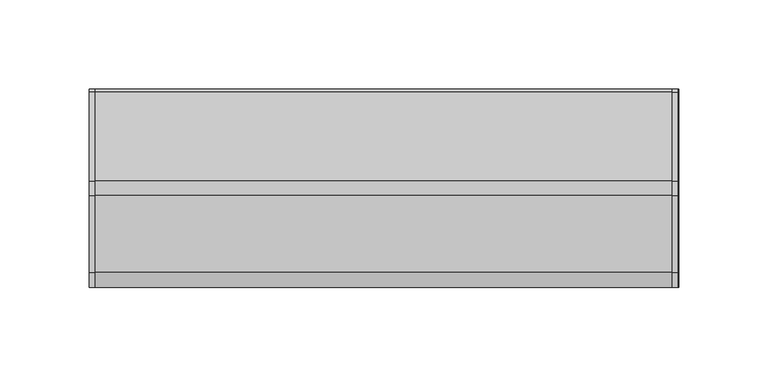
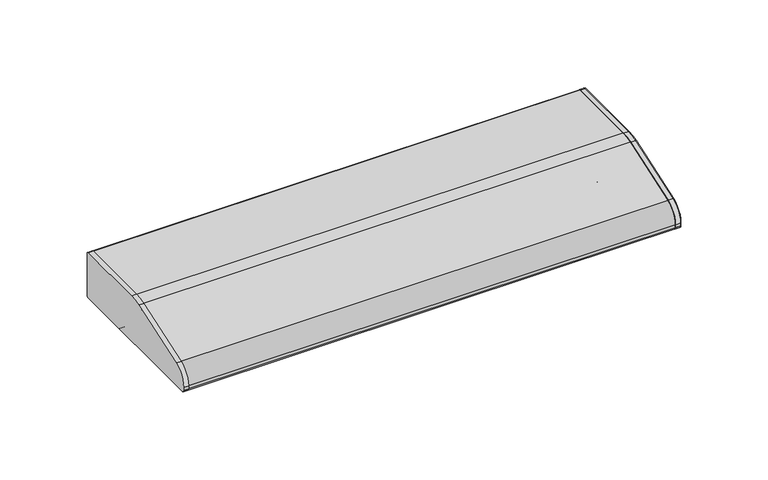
"""IFC4 building model written with IfcOpenShell, lengths in millimetres: light fixture geometry, HermanMiller_SupplementalProducts_G6136_UtilityTaskLight : AO Etho Canvas 24W."""

from ifc_helpers import new_model, si_unit, point, frame, frame_2d, origin, place, context, project, spatial, polyline, circle_curve, trimmed, segment, composite_curve, outline, extrude, source, transform, mapped, element, save


def light_fixture_0c34e72c(model_context):
    return source(origin(), model_context, "Body", "SweptSolid", [
        extrude(outline(composite_curve([segment(polyline([(53.975, 1270.0), (-53.975, 1270.0)]), True, "CONTINUOUS"), segment(trimmed(circle_curve(frame_2d((-53.975, 1271.5875)), 1.5875), [point((-53.975, 1270.0))], [point((-55.5625, 1271.5875))], False, "CARTESIAN"), True, "CONTINUOUS"), segment(polyline([(-55.5625, 1271.5875), (-55.5625, 1273.6285714)]), True, "CONTINUOUS"), segment(trimmed(circle_curve(frame_2d((-42.8625, 1273.6285714)), 12.7), [point((-55.5625, 1273.6285714))], [point((-46.9814189, 1285.6420849))], False, "CARTESIAN"), True, "CONTINUOUS"), segment(polyline([(-46.9814189, 1285.6420849), (-4.0045045, 1300.377027)]), True, "CONTINUOUS"), segment(trimmed(circle_curve(frame_2d((4.2333333, 1276.35)), 25.4), [point((-4.0045045, 1300.377027))], [point((4.2333333, 1301.75))], False, "CARTESIAN"), True, "CONTINUOUS"), segment(polyline([(4.2333333, 1301.75), (53.975, 1301.75)]), True, "CONTINUOUS"), segment(trimmed(circle_curve(frame_2d((53.975, 1300.1625)), 1.5875), [point((53.975, 1301.75))], [point((55.5625, 1300.1625))], False, "CARTESIAN"), True, "CONTINUOUS"), segment(polyline([(55.5625, 1300.1625), (55.5625, 1271.5875)]), True, "CONTINUOUS"), segment(trimmed(circle_curve(frame_2d((53.975, 1271.5875)), 1.5875), [point((55.5625, 1271.5875))], [point((53.975, 1270.0))], False, "CARTESIAN"), True, "CONTINUOUS")], self_intersect=False)), frame((161.544, 0.0, 0.0), z_axis=(1.0, 0.0, 0.0), x_axis=(0.0, 1.0, 0.0)), (0.0, 0.0, 1.0), 3.175),
        extrude(outline(composite_curve([segment(trimmed(circle_curve(frame_2d((53.975, 1300.1625)), 1.5875), [point((53.975, 1301.75))], [point((55.5625, 1300.1625))], False, "CARTESIAN"), True, "CONTINUOUS"), segment(polyline([(55.5625, 1300.1625), (55.5625, 1271.5875)]), True, "CONTINUOUS"), segment(trimmed(circle_curve(frame_2d((53.975, 1271.5875)), 1.5875), [point((55.5625, 1271.5875))], [point((53.975, 1270.0))], False, "CARTESIAN"), True, "CONTINUOUS"), segment(polyline([(53.975, 1270.0), (-53.975, 1270.0)]), True, "CONTINUOUS"), segment(trimmed(circle_curve(frame_2d((-53.975, 1271.5875)), 1.5875), [point((-53.975, 1270.0))], [point((-55.5625, 1271.5875))], False, "CARTESIAN"), True, "CONTINUOUS"), segment(polyline([(-55.5625, 1271.5875), (-55.5625, 1273.6285714)]), True, "CONTINUOUS"), segment(trimmed(circle_curve(frame_2d((-42.8625, 1273.6285714)), 12.7), [point((-55.5625, 1273.6285714))], [point((-46.9814189, 1285.6420849))], False, "CARTESIAN"), True, "CONTINUOUS"), segment(polyline([(-46.9814189, 1285.6420849), (-4.0045045, 1300.377027)]), True, "CONTINUOUS"), segment(trimmed(circle_curve(frame_2d((4.2333333, 1276.35)), 25.4), [point((-4.0045045, 1300.377027))], [point((4.2333333, 1301.75))], False, "CARTESIAN"), True, "CONTINUOUS"), segment(polyline([(4.2333333, 1301.75), (53.975, 1301.75)]), True, "CONTINUOUS")], self_intersect=False)), frame((-164.719, 0.0, 0.0), z_axis=(1.0, 0.0, 0.0), x_axis=(0.0, 1.0, 0.0)), (0.0, 0.0, 1.0), 3.175),
        extrude(outline(composite_curve([segment(polyline([(55.5625, 1300.1625), (55.5625, 1271.5875)]), True, "CONTINUOUS"), segment(trimmed(circle_curve(frame_2d((53.975, 1271.5875)), 1.5875), [point((55.5625, 1271.5875))], [point((53.975, 1270.0))], False, "CARTESIAN"), True, "CONTINUOUS"), segment(polyline([(53.975, 1270.0), (19.05, 1270.0)]), True, "CONTINUOUS"), segment(trimmed(circle_curve(frame_2d((19.05, 1271.5875)), 1.5875), [point((19.05, 1270.0))], [point((17.4625, 1271.5875))], False, "CARTESIAN"), True, "CONTINUOUS"), segment(polyline([(17.4625, 1271.5875), (17.4625, 1300.1625), (4.4979167, 1300.1625)]), True, "CONTINUOUS"), segment(trimmed(circle_curve(frame_2d((4.4979167, 1274.7625)), 25.4), [point((4.4979167, 1300.1625))], [point((-3.7399212, 1298.789527))], True, "CARTESIAN"), True, "CONTINUOUS"), segment(polyline([(-3.7399212, 1298.789527), (-37.4564189, 1287.2295849)]), True, "CONTINUOUS"), segment(trimmed(circle_curve(frame_2d((-33.3375, 1275.2160714)), 12.7), [point((-37.4564189, 1287.2295849))], [point((-46.0375, 1275.2160714))], True, "CARTESIAN"), True, "CONTINUOUS"), segment(polyline([(-46.0375, 1275.2160714), (-46.0375, 1271.5875)]), True, "CONTINUOUS"), segment(trimmed(circle_curve(frame_2d((-47.625, 1271.5875)), 1.5875), [point((-46.0375, 1271.5875))], [point((-47.625, 1270.0))], False, "CARTESIAN"), True, "CONTINUOUS"), segment(polyline([(-47.625, 1270.0), (-53.975, 1270.0)]), True, "CONTINUOUS"), segment(trimmed(circle_curve(frame_2d((-53.975, 1271.5875)), 1.5875), [point((-53.975, 1270.0))], [point((-55.5625, 1271.5875))], False, "CARTESIAN"), True, "CONTINUOUS"), segment(polyline([(-55.5625, 1271.5875), (-55.5625, 1273.6285714)]), True, "CONTINUOUS"), segment(trimmed(circle_curve(frame_2d((-42.8625, 1273.6285714)), 12.7), [point((-55.5625, 1273.6285714))], [point((-46.9814189, 1285.6420849))], False, "CARTESIAN"), True, "CONTINUOUS"), segment(polyline([(-46.9814189, 1285.6420849), (-4.0045045, 1300.377027)]), True, "CONTINUOUS"), segment(trimmed(circle_curve(frame_2d((4.2333333, 1276.35)), 25.4), [point((-4.0045045, 1300.377027))], [point((4.2333333, 1301.75))], False, "CARTESIAN"), True, "CONTINUOUS"), segment(polyline([(4.2333333, 1301.75), (53.975, 1301.75)]), True, "CONTINUOUS"), segment(trimmed(circle_curve(frame_2d((53.975, 1300.1625)), 1.5875), [point((53.975, 1301.75))], [point((55.5625, 1300.1625))], False, "CARTESIAN"), True, "CONTINUOUS")], self_intersect=False)), frame((-164.719, 0.0, 0.0), z_axis=(1.0, 0.0, 0.0), x_axis=(0.0, 1.0, 0.0)), (0.0, 0.0, 1.0), 329.9040011),
        extrude(outline(composite_curve([segment(trimmed(circle_curve(frame_2d((1.5875, 1287.4625)), 9.525), [point((-7.9375, 1287.4625))], [point((11.1125, 1287.4625))], False, "CARTESIAN"), True, "CONTINUOUS"), segment(trimmed(circle_curve(frame_2d((1.5875, 1287.4625)), 9.525), [point((11.1125, 1287.4625))], [point((-7.9375, 1287.4625))], False, "CARTESIAN"), True, "CONTINUOUS")], self_intersect=False)), frame((139.319, 0.0, 0.0), z_axis=(1.0, 0.0, 0.0), x_axis=(0.0, 1.0, 0.0)), (0.0, 0.0, 1.0), 12.7),
        extrude(outline(composite_curve([segment(trimmed(circle_curve(frame_2d((1.5875, 1287.4625)), 9.525), [point((-7.9375, 1287.4625))], [point((11.1125, 1287.4625))], False, "CARTESIAN"), True, "CONTINUOUS"), segment(trimmed(circle_curve(frame_2d((1.5875, 1287.4625)), 9.525), [point((11.1125, 1287.4625))], [point((-7.9375, 1287.4625))], False, "CARTESIAN"), True, "CONTINUOUS")], self_intersect=False)), frame((-152.019, 0.0, 0.0), z_axis=(1.0, 0.0, 0.0), x_axis=(0.0, 1.0, 0.0)), (0.0, 0.0, 1.0), 12.7),
        extrude(outline(composite_curve([segment(trimmed(circle_curve(frame_2d((1.5875, 1287.4625)), 9.525), [point((-7.9375, 1287.4625))], [point((11.1125, 1287.4625))], False, "CARTESIAN"), True, "CONTINUOUS"), segment(trimmed(circle_curve(frame_2d((1.5875, 1287.4625)), 9.525), [point((11.1125, 1287.4625))], [point((-7.9375, 1287.4625))], False, "CARTESIAN"), True, "CONTINUOUS")], self_intersect=False)), frame((-139.319, 0.0, 0.0), z_axis=(1.0, 0.0, 0.0), x_axis=(0.0, 1.0, 0.0)), (0.0, 0.0, 1.0), 278.638),
        extrude(outline(composite_curve([segment(polyline([(17.4625, 1273.175), (-46.0375, 1273.175), (-46.0375, 1275.2160714)]), True, "CONTINUOUS"), segment(trimmed(circle_curve(frame_2d((-33.3375, 1275.2160714)), 12.7), [point((-46.0375, 1275.2160714))], [point((-37.4564189, 1287.2295849))], False, "CARTESIAN"), True, "CONTINUOUS"), segment(polyline([(-37.4564189, 1287.2295849), (-3.7399212, 1298.789527)]), True, "CONTINUOUS"), segment(trimmed(circle_curve(frame_2d((4.4979167, 1274.7625)), 25.4), [point((-3.7399212, 1298.789527))], [point((4.4979167, 1300.1625))], False, "CARTESIAN"), True, "CONTINUOUS"), segment(polyline([(4.4979167, 1300.1625), (17.4625, 1300.1625), (17.4625, 1273.175)]), True, "CONTINUOUS")], self_intersect=False)), frame((152.019, 0.0, 0.0), z_axis=(1.0, 0.0, 0.0), x_axis=(0.0, 1.0, 0.0)), (0.0, 0.0, 1.0), 9.525),
        extrude(outline(composite_curve([segment(polyline([(17.4625, 1273.175), (-46.0375, 1273.175), (-46.0375, 1275.2160714)]), True, "CONTINUOUS"), segment(trimmed(circle_curve(frame_2d((-33.3375, 1275.2160714)), 12.7), [point((-46.0375, 1275.2160714))], [point((-37.4564189, 1287.2295849))], False, "CARTESIAN"), True, "CONTINUOUS"), segment(polyline([(-37.4564189, 1287.2295849), (-3.7399212, 1298.789527)]), True, "CONTINUOUS"), segment(trimmed(circle_curve(frame_2d((4.4979167, 1274.7625)), 25.4), [point((-3.7399212, 1298.789527))], [point((4.4979167, 1300.1625))], False, "CARTESIAN"), True, "CONTINUOUS"), segment(polyline([(4.4979167, 1300.1625), (17.4625, 1300.1625), (17.4625, 1273.175)]), True, "CONTINUOUS")], self_intersect=False)), frame((-161.544, 0.0, 0.0), z_axis=(1.0, 0.0, 0.0), x_axis=(0.0, 1.0, 0.0)), (0.0, 0.0, 1.0), 9.525),
    ])


if __name__ == "__main__":
    model = new_model("IFC4")
    model_context = context("Model", 3, world=origin())
    ifc_project = project(units=[si_unit("LENGTHUNIT", "METRE", prefix="MILLI")], contexts=[model_context])
    site = spatial("IfcSite", under=ifc_project)
    building = spatial("IfcBuilding", under=site)
    placement = place(None, origin())
    light_fixture_shape = light_fixture_0c34e72c(model_context)
    element("IfcLightFixture", 1, ObjectType="HermanMiller_SupplementalProducts_G6136_UtilityTaskLight : AO Etho Canvas 24W", at=placement, inside=building, context=model_context, shape_type="MappedRepresentation", body=[
        mapped(light_fixture_shape, transform((0.0, 0.0, 0.0), x_axis=(1.0, 0.0, 0.0), y_axis=(0.0, 1.0, 0.0), z_axis=(0.0, 0.0, 1.0))),
    ])
    save(model, "model.ifc")
